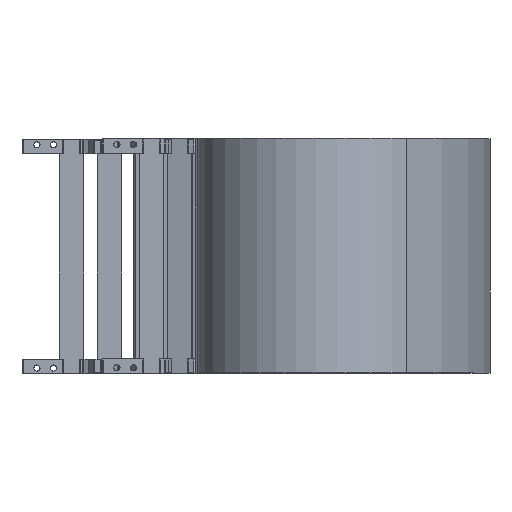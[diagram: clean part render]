
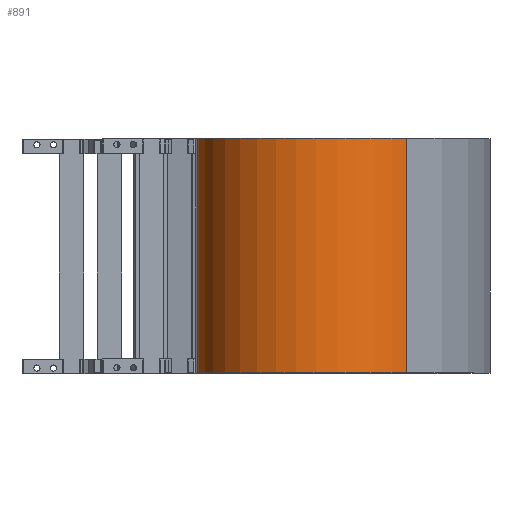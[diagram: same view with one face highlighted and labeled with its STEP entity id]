
A CAD part, top view. The second image highlights one B-rep face of the part: STEP entity #891.
In plain terms, the highlighted cylindrical face has radius 115 mm (diameter 230 mm), a partial arc.
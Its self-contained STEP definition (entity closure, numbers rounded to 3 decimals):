
#891 = ADVANCED_FACE( '', ( #1892 ), #1893, .T. );
#1892 = FACE_OUTER_BOUND( '', #3020, .T. );
#1893 = CYLINDRICAL_SURFACE( '', #3021, 115. );
#3020 = EDGE_LOOP( '', ( #5468, #5469, #5470, #5471 ) );
#3021 = AXIS2_PLACEMENT_3D( '', #5472, #5473, #5474 );
#5468 = ORIENTED_EDGE( '', *, *, #7969, .T. );
#5469 = ORIENTED_EDGE( '', *, *, #7764, .F. );
#5470 = ORIENTED_EDGE( '', *, *, #7970, .F. );
#5471 = ORIENTED_EDGE( '', *, *, #7727, .T. );
#5472 = CARTESIAN_POINT( '', ( 180.522, 114., 150.456 ) );
#5473 = DIRECTION( '', ( 0., 1., 0. ) );
#5474 = DIRECTION( '', ( 0., 0., -1. ) );
#7727 = EDGE_CURVE( '', #9641, #9639, #9642, .T. );
#7764 = EDGE_CURVE( '', #9695, #9690, #9697, .T. );
#7969 = EDGE_CURVE( '', #9639, #9690, #9968, .T. );
#7970 = EDGE_CURVE( '', #9641, #9695, #9969, .T. );
#9639 = VERTEX_POINT( '', #12226 );
#9641 = VERTEX_POINT( '', #12228 );
#9642 = LINE( '', #12229, #12230 );
#9690 = VERTEX_POINT( '', #12304 );
#9695 = VERTEX_POINT( '', #12310 );
#9697 = LINE( '', #12312, #12313 );
#9968 = CIRCLE( '', #12706, 115. );
#9969 = CIRCLE( '', #12707, 115. );
#12226 = CARTESIAN_POINT( '', ( 92.181, -114., 76.828 ) );
#12228 = CARTESIAN_POINT( '', ( 92.181, 114., 76.828 ) );
#12229 = CARTESIAN_POINT( '', ( 92.181, 114., 76.828 ) );
#12230 = VECTOR( '', #14117, 1000. );
#12304 = CARTESIAN_POINT( '', ( 268.862, -114., 224.083 ) );
#12310 = CARTESIAN_POINT( '', ( 268.862, 114., 224.083 ) );
#12312 = CARTESIAN_POINT( '', ( 268.862, 114., 224.083 ) );
#12313 = VECTOR( '', #14154, 1000. );
#12706 = AXIS2_PLACEMENT_3D( '', #14340, #14341, #14342 );
#12707 = AXIS2_PLACEMENT_3D( '', #14343, #14344, #14345 );
#14117 = DIRECTION( '', ( 0., -1., 0. ) );
#14154 = DIRECTION( '', ( 0., -1., 0. ) );
#14340 = CARTESIAN_POINT( '', ( 180.522, -114., 150.456 ) );
#14341 = DIRECTION( '', ( 0., 1., 0. ) );
#14342 = DIRECTION( '', ( 1., 0., 0. ) );
#14343 = CARTESIAN_POINT( '', ( 180.522, 114., 150.456 ) );
#14344 = DIRECTION( '', ( 0., 1., 0. ) );
#14345 = DIRECTION( '', ( 1., 0., 0. ) );
